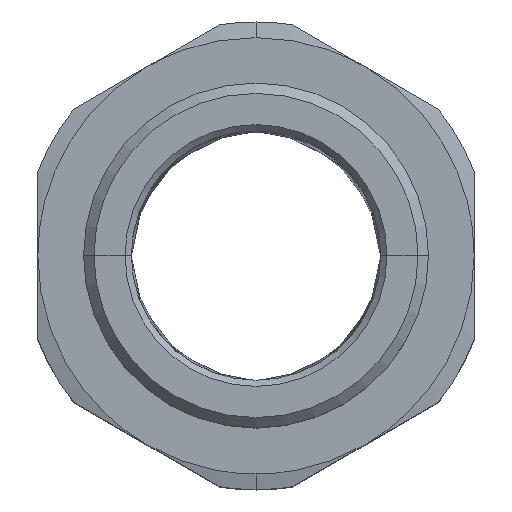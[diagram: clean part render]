
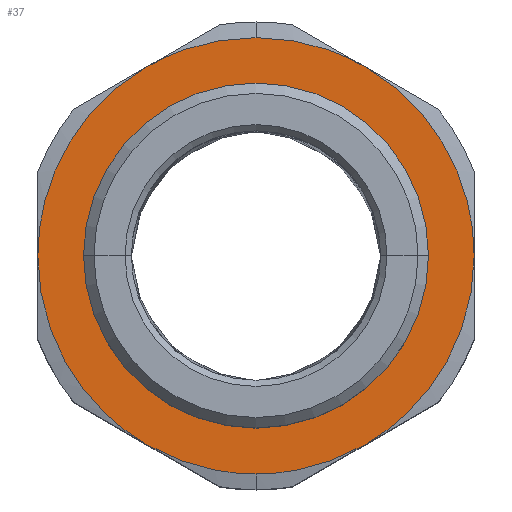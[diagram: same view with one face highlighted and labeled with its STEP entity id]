
A CAD part, top view. The second image highlights one B-rep face of the part: STEP entity #37.
In plain terms, the highlighted planar face has unit normal (0, 0, 1).
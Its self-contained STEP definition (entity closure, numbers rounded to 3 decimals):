
#17=FACE_BOUND('',#310,.T.);
#37=ADVANCED_FACE('',(#173,#17),#1779,.T.);
#173=FACE_OUTER_BOUND('',#309,.T.);
#309=EDGE_LOOP('',(#497,#498,#499,#500,#501,#502,#503,#504));
#310=EDGE_LOOP('',(#505,#506));
#497=ORIENTED_EDGE('',*,*,#1084,.F.);
#498=ORIENTED_EDGE('',*,*,#1085,.F.);
#499=ORIENTED_EDGE('',*,*,#1086,.F.);
#500=ORIENTED_EDGE('',*,*,#1088,.F.);
#501=ORIENTED_EDGE('',*,*,#1064,.T.);
#502=ORIENTED_EDGE('',*,*,#1059,.T.);
#503=ORIENTED_EDGE('',*,*,#1058,.T.);
#504=ORIENTED_EDGE('',*,*,#1057,.T.);
#505=ORIENTED_EDGE('',*,*,#1189,.F.);
#506=ORIENTED_EDGE('',*,*,#1165,.F.);
#1057=EDGE_CURVE('',#1610,#1619,#1339,.T.);
#1058=EDGE_CURVE('',#1613,#1610,#1340,.T.);
#1059=EDGE_CURVE('',#1616,#1613,#1341,.T.);
#1064=EDGE_CURVE('',#1629,#1616,#1343,.T.);
#1084=EDGE_CURVE('',#1631,#1619,#1344,.T.);
#1085=EDGE_CURVE('',#1634,#1631,#1345,.T.);
#1086=EDGE_CURVE('',#1637,#1634,#1346,.T.);
#1088=EDGE_CURVE('',#1629,#1637,#1347,.T.);
#1165=EDGE_CURVE('',#1683,#1696,#1427,.T.);
#1189=EDGE_CURVE('',#1696,#1683,#1440,.T.);
#1339=(
BOUNDED_CURVE()
B_SPLINE_CURVE(2,(#3313,#3314,#3315),.UNSPECIFIED.,.F.,.F.)
B_SPLINE_CURVE_WITH_KNOTS((3,3),(68.48,74.705),
 .UNSPECIFIED.)
CURVE()
GEOMETRIC_REPRESENTATION_ITEM()
RATIONAL_B_SPLINE_CURVE((1.,0.966,1.))
REPRESENTATION_ITEM('')
);
#1340=(
BOUNDED_CURVE()
B_SPLINE_CURVE(2,(#3316,#3317,#3318),.UNSPECIFIED.,.F.,.F.)
B_SPLINE_CURVE_WITH_KNOTS((3,3),(56.029,68.48),
 .UNSPECIFIED.)
CURVE()
GEOMETRIC_REPRESENTATION_ITEM()
RATIONAL_B_SPLINE_CURVE((1.,0.866,1.))
REPRESENTATION_ITEM('')
);
#1341=(
BOUNDED_CURVE()
B_SPLINE_CURVE(2,(#3319,#3320,#3321),.UNSPECIFIED.,.F.,.F.)
B_SPLINE_CURVE_WITH_KNOTS((3,3),(43.578,56.029),
 .UNSPECIFIED.)
CURVE()
GEOMETRIC_REPRESENTATION_ITEM()
RATIONAL_B_SPLINE_CURVE((1.,0.866,1.))
REPRESENTATION_ITEM('')
);
#1343=(
BOUNDED_CURVE()
B_SPLINE_CURVE(2,(#3331,#3332,#3333),.UNSPECIFIED.,.F.,.F.)
B_SPLINE_CURVE_WITH_KNOTS((3,3),(37.353,43.578),
 .UNSPECIFIED.)
CURVE()
GEOMETRIC_REPRESENTATION_ITEM()
RATIONAL_B_SPLINE_CURVE((1.,0.966,1.))
REPRESENTATION_ITEM('')
);
#1344=(
BOUNDED_CURVE()
B_SPLINE_CURVE(2,(#3440,#3441,#3442),.UNSPECIFIED.,.F.,.F.)
B_SPLINE_CURVE_WITH_KNOTS((3,3),(68.48,74.705),
 .UNSPECIFIED.)
CURVE()
GEOMETRIC_REPRESENTATION_ITEM()
RATIONAL_B_SPLINE_CURVE((1.,0.966,1.))
REPRESENTATION_ITEM('')
);
#1345=(
BOUNDED_CURVE()
B_SPLINE_CURVE(2,(#3443,#3444,#3445),.UNSPECIFIED.,.F.,.F.)
B_SPLINE_CURVE_WITH_KNOTS((3,3),(56.029,68.48),
 .UNSPECIFIED.)
CURVE()
GEOMETRIC_REPRESENTATION_ITEM()
RATIONAL_B_SPLINE_CURVE((1.,0.866,1.))
REPRESENTATION_ITEM('')
);
#1346=(
BOUNDED_CURVE()
B_SPLINE_CURVE(2,(#3446,#3447,#3448),.UNSPECIFIED.,.F.,.F.)
B_SPLINE_CURVE_WITH_KNOTS((3,3),(43.578,56.029),
 .UNSPECIFIED.)
CURVE()
GEOMETRIC_REPRESENTATION_ITEM()
RATIONAL_B_SPLINE_CURVE((1.,0.866,1.))
REPRESENTATION_ITEM('')
);
#1347=(
BOUNDED_CURVE()
B_SPLINE_CURVE(2,(#3452,#3453,#3454),.UNSPECIFIED.,.F.,.F.)
B_SPLINE_CURVE_WITH_KNOTS((3,3),(37.353,43.578),
 .UNSPECIFIED.)
CURVE()
GEOMETRIC_REPRESENTATION_ITEM()
RATIONAL_B_SPLINE_CURVE((1.,0.966,1.))
REPRESENTATION_ITEM('')
);
#1427=TRIMMED_CURVE($,#1538,(#3762),(#3763),.T.,.CARTESIAN.);
#1440=TRIMMED_CURVE($,#1551,(#3823),(#3824),.T.,.CARTESIAN.);
#1538=CIRCLE('',#2245,7.4);
#1551=CIRCLE('',#2258,7.4);
#1610=VERTEX_POINT('',#3106);
#1613=VERTEX_POINT('',#3109);
#1616=VERTEX_POINT('',#3112);
#1619=VERTEX_POINT('',#3115);
#1629=VERTEX_POINT('',#3125);
#1631=VERTEX_POINT('',#3127);
#1634=VERTEX_POINT('',#3130);
#1637=VERTEX_POINT('',#3133);
#1683=VERTEX_POINT('',#3179);
#1696=VERTEX_POINT('',#3192);
#1779=PLANE('',#2159);
#2159=AXIS2_PLACEMENT_3D('',#2815,#2358,$);
#2245=AXIS2_PLACEMENT_3D($,#3761,#2484,#2485);
#2258=AXIS2_PLACEMENT_3D($,#3822,#2510,#2511);
#2358=DIRECTION('',(0.,0.,1.));
#2484=DIRECTION('',(0.,0.,1.));
#2485=DIRECTION('',(-1.,0.,0.));
#2510=DIRECTION('',(0.,0.,1.));
#2511=DIRECTION('',(1.,0.,0.));
#2815=CARTESIAN_POINT('',(127368.551,-54660.013,5.5));
#3106=CARTESIAN_POINT('',(127374.011,-54680.723,5.5));
#3109=CARTESIAN_POINT('',(127368.761,-54671.63,5.5));
#3112=CARTESIAN_POINT('',(127374.011,-54662.536,5.5));
#3115=CARTESIAN_POINT('',(127379.261,-54682.13,5.5));
#3125=CARTESIAN_POINT('',(127379.261,-54661.13,5.5));
#3127=CARTESIAN_POINT('',(127384.511,-54680.723,5.5));
#3130=CARTESIAN_POINT('',(127389.761,-54671.63,5.5));
#3133=CARTESIAN_POINT('',(127384.511,-54662.536,5.5));
#3179=CARTESIAN_POINT('',(127371.861,-54671.63,5.5));
#3192=CARTESIAN_POINT('',(127386.661,-54671.63,5.5));
#3313=CARTESIAN_POINT('',(127374.011,-54680.723,5.5));
#3314=CARTESIAN_POINT('',(127376.448,-54682.13,5.5));
#3315=CARTESIAN_POINT('',(127379.261,-54682.13,5.5));
#3316=CARTESIAN_POINT('',(127368.761,-54671.63,5.5));
#3317=CARTESIAN_POINT('',(127368.761,-54677.692,5.5));
#3318=CARTESIAN_POINT('',(127374.011,-54680.723,5.5));
#3319=CARTESIAN_POINT('',(127374.011,-54662.536,5.5));
#3320=CARTESIAN_POINT('',(127368.761,-54665.567,5.5));
#3321=CARTESIAN_POINT('',(127368.761,-54671.63,5.5));
#3331=CARTESIAN_POINT('',(127379.261,-54661.13,5.5));
#3332=CARTESIAN_POINT('',(127376.448,-54661.13,5.5));
#3333=CARTESIAN_POINT('',(127374.011,-54662.536,5.5));
#3440=CARTESIAN_POINT('',(127384.511,-54680.723,5.5));
#3441=CARTESIAN_POINT('',(127382.074,-54682.13,5.5));
#3442=CARTESIAN_POINT('',(127379.261,-54682.13,5.5));
#3443=CARTESIAN_POINT('',(127389.761,-54671.63,5.5));
#3444=CARTESIAN_POINT('',(127389.761,-54677.692,5.5));
#3445=CARTESIAN_POINT('',(127384.511,-54680.723,5.5));
#3446=CARTESIAN_POINT('',(127384.511,-54662.536,5.5));
#3447=CARTESIAN_POINT('',(127389.761,-54665.567,5.5));
#3448=CARTESIAN_POINT('',(127389.761,-54671.63,5.5));
#3452=CARTESIAN_POINT('',(127379.261,-54661.13,5.5));
#3453=CARTESIAN_POINT('',(127382.074,-54661.13,5.5));
#3454=CARTESIAN_POINT('',(127384.511,-54662.536,5.5));
#3761=CARTESIAN_POINT('',(127379.261,-54671.63,5.5));
#3762=CARTESIAN_POINT('',(127371.861,-54671.63,5.5));
#3763=CARTESIAN_POINT('',(127386.661,-54671.63,5.5));
#3822=CARTESIAN_POINT('',(127379.261,-54671.63,5.5));
#3823=CARTESIAN_POINT('',(127386.661,-54671.63,5.5));
#3824=CARTESIAN_POINT('',(127371.861,-54671.63,5.5));
